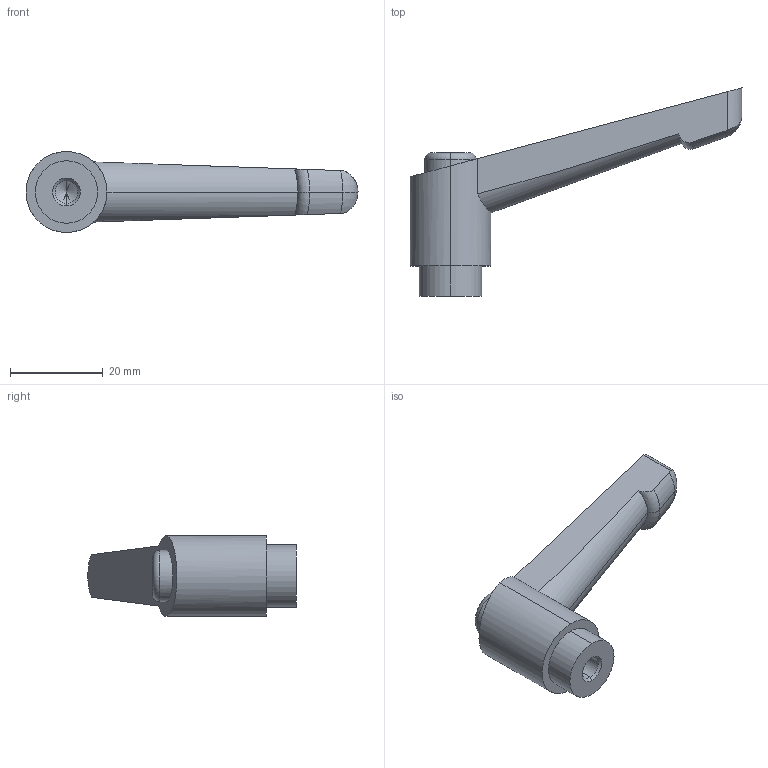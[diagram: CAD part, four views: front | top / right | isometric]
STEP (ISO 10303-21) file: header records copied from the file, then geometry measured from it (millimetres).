
FILE_DESCRIPTION (( 'STEP AP214' ), '1' );
FILE_NAME ('2.9036 Kiinnitysvipu M6 AL sisäkierteellä.STEP', '2025-09-10T07:38:31', ( '' ), ( '' ), 'SwSTEP 2.0', 'SolidWorks 2025', '' );
FILE_SCHEMA (( 'AUTOMOTIVE_DESIGN' ));
Length unit declared in the file: millimetre
Products named in the file (1): 2.9036 Kiinnitysvipu M6 AL sisäkierteellä
Bounding box: 71.75 x 45 x 17.5 mm (x, y, z)
Volume: 11808.3 mm3; surface area: 4351.7 mm2
Topology: 1 solids, 1 shells, 56 faces, 141 edges, 87 vertices
Faces by surface type: cylinder 31, cone 13, torus 6, plane 6
Entity records: 2326 total; most frequent: CARTESIAN_POINT 1084, ORIENTED_EDGE 274, DIRECTION 219, EDGE_CURVE 137, AXIS2_PLACEMENT_3D 90, VERTEX_POINT 87, B_SPLINE_CURVE_WITH_KNOTS 65, EDGE_LOOP 60
